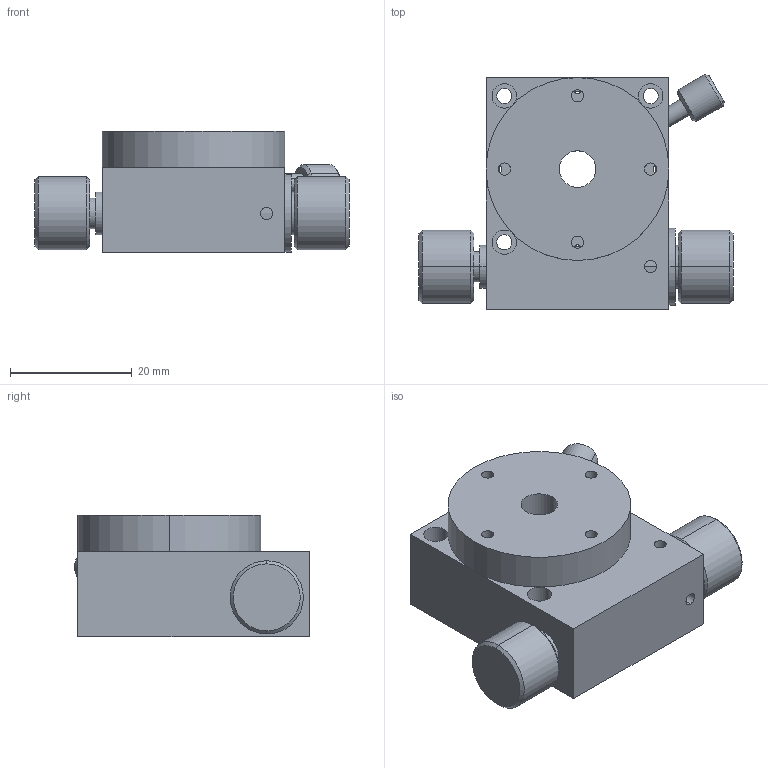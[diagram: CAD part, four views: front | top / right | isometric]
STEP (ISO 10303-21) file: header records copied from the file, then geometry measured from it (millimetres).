
FILE_DESCRIPTION (( 'STEP AP203' ), '1' );
FILE_NAME ('R1-317-L4.STEP', '2014-07-17T07:08:50', ( '網 啪檜隴' ), ( 'Microsoft' ), 'SwSTEP 2.0', 'SolidWorks 2012', '' );
FILE_SCHEMA (( 'CONFIG_CONTROL_DESIGN' ));
Length unit declared in the file: millimetre
Products named in the file (7): Plate; KNOB-A; R1-317-L4; RA-003-013; Carriage Plate; KNOB-B; Base Plate
Assembly tree (6 placements, depth 2):
  R1-317-L4
    Base Plate
    Plate
    KNOB-A
    KNOB-B
    Carriage Plate
    RA-003-013
Bounding box: 51.5 x 38.51 x 20 mm (x, y, z)
Volume: 15814.4 mm3; surface area: 11517.3 mm2
Topology: 6 solids, 6 shells, 121 faces, 276 edges, 180 vertices
Faces by surface type: cylinder 76, plane 31, cone 14
Entity records: 4525 total; most frequent: CARTESIAN_POINT 841, DIRECTION 682, ORIENTED_EDGE 552, AXIS2_PLACEMENT_3D 289, EDGE_CURVE 276, VERTEX_POINT 180, EDGE_LOOP 176, CIRCLE 159
